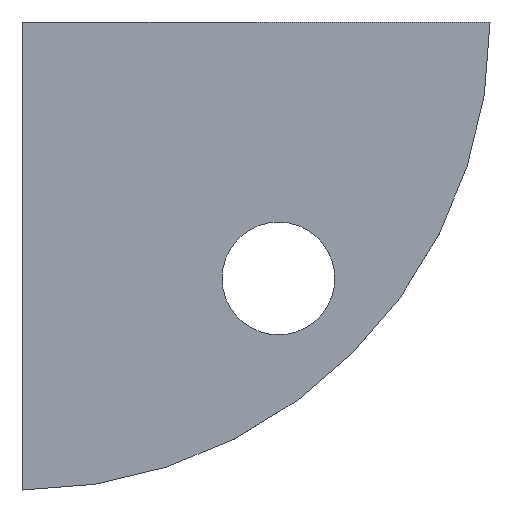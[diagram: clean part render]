
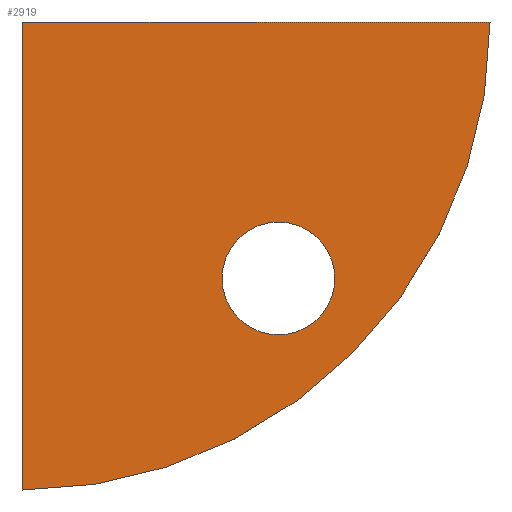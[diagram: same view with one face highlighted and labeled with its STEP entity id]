
A CAD part, front view. The second image highlights one B-rep face of the part: STEP entity #2919.
In plain terms, the highlighted planar face has unit normal (0, -1, 0).
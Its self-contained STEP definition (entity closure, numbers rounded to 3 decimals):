
#132 = EDGE_CURVE ( 'NONE', #2473, #2117, #2010, .T. ) ;
#238 = CIRCLE ( 'NONE', #2541, 36.5 ) ;
#285 = CARTESIAN_POINT ( 'NONE',  ( 0., 0., -3. ) ) ;
#288 = DIRECTION ( 'NONE',  ( 0., -1., 0. ) ) ;
#425 = AXIS2_PLACEMENT_3D ( 'NONE', #2159, #288, #1988 ) ;
#451 = DIRECTION ( 'NONE',  ( 0., -1., 0. ) ) ;
#454 = ORIENTED_EDGE ( 'NONE', *, *, #132, .F. ) ;
#489 = EDGE_CURVE ( 'NONE', #2355, #2473, #238, .T. ) ;
#647 = ORIENTED_EDGE ( 'NONE', *, *, #489, .F. ) ;
#770 = EDGE_CURVE ( 'NONE', #2117, #2355, #2736, .T. ) ;
#856 = CIRCLE ( 'NONE', #425, 4.4 ) ;
#901 = ORIENTED_EDGE ( 'NONE', *, *, #2511, .F. ) ;
#1122 = PLANE ( 'NONE',  #3686 ) ;
#1175 = DIRECTION ( 'NONE',  ( 0., 1., 0. ) ) ;
#1420 = CARTESIAN_POINT ( 'NONE',  ( 0., 0., -3. ) ) ;
#1467 = VERTEX_POINT ( 'NONE', #4064 ) ;
#1499 = DIRECTION ( 'NONE',  ( 0., 0., -1. ) ) ;
#1506 = EDGE_LOOP ( 'NONE', ( #901, #4283 ) ) ;
#1634 = CARTESIAN_POINT ( 'NONE',  ( 0., 0., 0. ) ) ;
#1917 = CIRCLE ( 'NONE', #2056, 4.4 ) ;
#1988 = DIRECTION ( 'NONE',  ( 0., 0., -1. ) ) ;
#2010 = LINE ( 'NONE', #285, #2903 ) ;
#2051 = CARTESIAN_POINT ( 'NONE',  ( 0., 0., 0. ) ) ;
#2056 = AXIS2_PLACEMENT_3D ( 'NONE', #3286, #3607, #1499 ) ;
#2108 = VECTOR ( 'NONE', #4058, 1000. ) ;
#2117 = VERTEX_POINT ( 'NONE', #2051 ) ;
#2146 = FACE_OUTER_BOUND ( 'NONE', #3888, .T. ) ;
#2159 = CARTESIAN_POINT ( 'NONE',  ( 20., 0., -20. ) ) ;
#2188 = FACE_BOUND ( 'NONE', #1506, .T. ) ;
#2355 = VERTEX_POINT ( 'NONE', #3841 ) ;
#2473 = VERTEX_POINT ( 'NONE', #3271 ) ;
#2511 = EDGE_CURVE ( 'NONE', #1467, #3116, #856, .T. ) ;
#2541 = AXIS2_PLACEMENT_3D ( 'NONE', #3462, #1175, #3944 ) ;
#2642 = CARTESIAN_POINT ( 'NONE',  ( 20., 0., -15.6 ) ) ;
#2736 = LINE ( 'NONE', #1634, #2108 ) ;
#2903 = VECTOR ( 'NONE', #4068, 1000. ) ;
#2919 = ADVANCED_FACE ( 'NONE', ( #2146, #2188 ), #1122, .T. ) ;
#3116 = VERTEX_POINT ( 'NONE', #2642 ) ;
#3271 = CARTESIAN_POINT ( 'NONE',  ( 0., 0., -36.5 ) ) ;
#3286 = CARTESIAN_POINT ( 'NONE',  ( 20., 0., -20. ) ) ;
#3462 = CARTESIAN_POINT ( 'NONE',  ( 0., 0., 0. ) ) ;
#3607 = DIRECTION ( 'NONE',  ( 0., -1., 0. ) ) ;
#3686 = AXIS2_PLACEMENT_3D ( 'NONE', #1420, #451, #4239 ) ;
#3784 = ORIENTED_EDGE ( 'NONE', *, *, #770, .F. ) ;
#3841 = CARTESIAN_POINT ( 'NONE',  ( 36.5, 0., 0. ) ) ;
#3888 = EDGE_LOOP ( 'NONE', ( #3784, #454, #647 ) ) ;
#3944 = DIRECTION ( 'NONE',  ( 0., 0., -1. ) ) ;
#4022 = EDGE_CURVE ( 'NONE', #3116, #1467, #1917, .T. ) ;
#4058 = DIRECTION ( 'NONE',  ( 1., 0., 0. ) ) ;
#4064 = CARTESIAN_POINT ( 'NONE',  ( 20., 0., -24.4 ) ) ;
#4068 = DIRECTION ( 'NONE',  ( 0., 0., 1. ) ) ;
#4239 = DIRECTION ( 'NONE',  ( 0., 0., -1. ) ) ;
#4283 = ORIENTED_EDGE ( 'NONE', *, *, #4022, .F. ) ;
